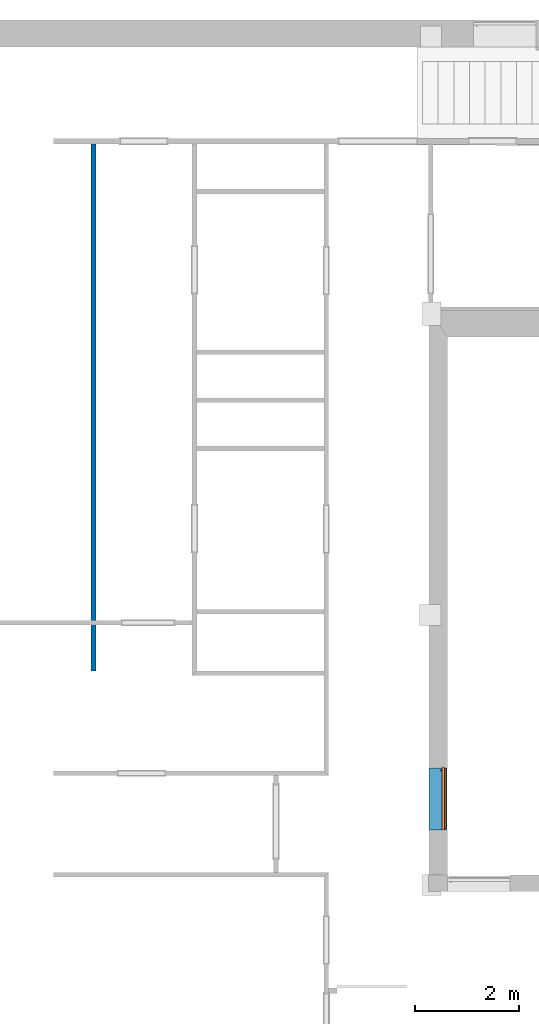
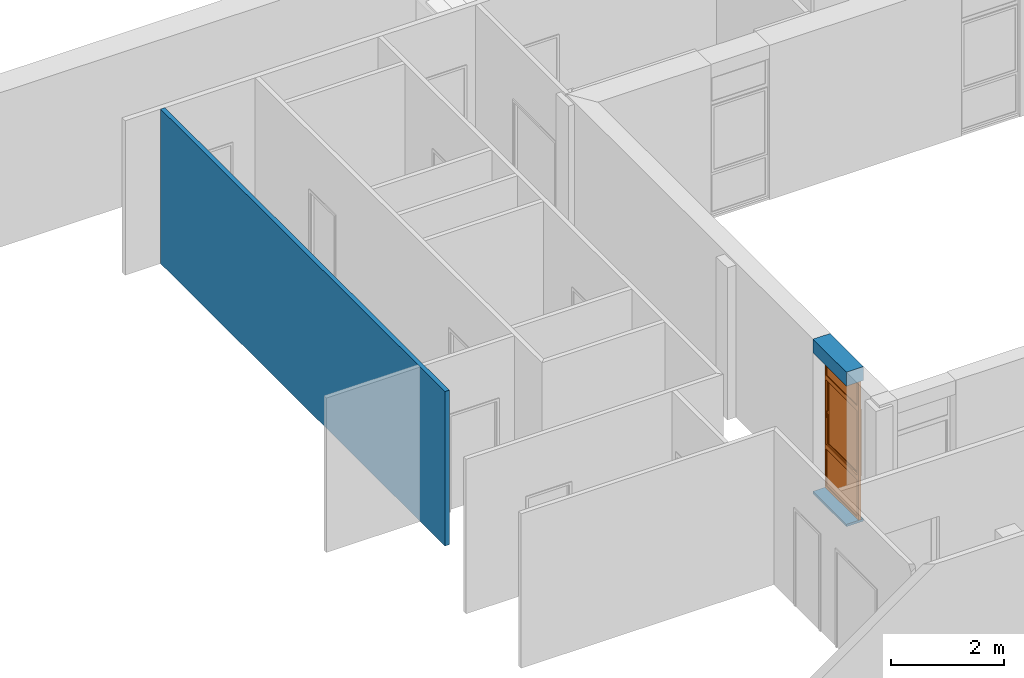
# One storey, part 27 of 60: 2 walls, 1 proxy, 1 opening.
"""IFC2X3 building model written with IfcOpenShell, lengths in millimetres."""

from ifc_helpers import new_model, entity, si_unit, converted_unit, derived_unit, money_unit, direction, frame, origin_with_axes, origin_2d_with_axis, place, context, subcontext, project, spatial, polyline, rectangle, outline, extrude, open_shell, faceted_brep, surface_model, source, transform, mapped, material, layer, layer_set, layer_usage, type_object, element, fill, save


model = new_model("IFC2X3")

# Units and contexts
model_context = context("Model", 3, precision=0.01, world=origin_with_axes(), true_north=direction((0.0, 1.0)))
body_context = subcontext(model_context, "Body", "Model", "MODEL_VIEW")
ifc_project = project(units=[si_unit("LENGTHUNIT", "METRE", prefix="MILLI"), si_unit("AREAUNIT", "SQUARE_METRE"), si_unit("VOLUMEUNIT", "CUBIC_METRE"), converted_unit("PLANEANGLEUNIT", "DEGREE", entity("IfcPlaneAngleMeasure", 0.0174532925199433), si_unit("PLANEANGLEUNIT", "RADIAN"), dimensions=[0, 0, 0, 0, 0, 0, 0]), money_unit("USD"), converted_unit("TIMEUNIT", "Year", entity("IfcTimeMeasure", 31557600.0), si_unit("TIMEUNIT", "SECOND"), dimensions=[0, 0, 1, 0, 0, 0, 0]), si_unit("MASSUNIT", "GRAM", prefix="KILO"), si_unit("THERMODYNAMICTEMPERATUREUNIT", "DEGREE_CELSIUS"), si_unit("LUMINOUSINTENSITYUNIT", "LUMEN"), si_unit("ENERGYUNIT", "JOULE", prefix="MEGA"), derived_unit("THERMALCONDUCTANCEUNIT", [(si_unit("POWERUNIT", "WATT"), 1), (si_unit("LENGTHUNIT", "METRE"), -1), (si_unit("THERMODYNAMICTEMPERATUREUNIT", "KELVIN"), -1)]), derived_unit("SPECIFICHEATCAPACITYUNIT", [(si_unit("ENERGYUNIT", "JOULE"), 1), (si_unit("MASSUNIT", "GRAM", prefix="KILO"), -1), (si_unit("THERMODYNAMICTEMPERATUREUNIT", "KELVIN"), -1)]), derived_unit("MASSDENSITYUNIT", [(si_unit("MASSUNIT", "GRAM", prefix="KILO"), 1), (si_unit("VOLUMEUNIT", "CUBIC_METRE"), -1)])], contexts=[model_context])

# Site, building, storey
site_placement = place(None, origin_with_axes())
site = spatial("IfcSite", under=ifc_project, at=site_placement, Name="Sitio", CompositionType="ELEMENT")
building_placement = place(site_placement, origin_with_axes())
building = spatial("IfcBuilding", under=site, at=building_placement, Name="Construcción", CompositionType="ELEMENT")
storey_placement = place(building_placement, frame((0.0, 0.0, 3650.0), z_axis=(0.0, 0.0, 1.0), x_axis=(1.0, 0.0, 0.0)))
storey = spatial("IfcBuildingStorey", under=building, at=storey_placement, Name="PLANTA 2ª", CompositionType="ELEMENT", Elevation=3650.0)

# Wall, opening, proxy
ifc_material_1 = material(Name="ARQ_AM246_Arrebossat_De_Guix")
ifc_layer_1 = layer(ifc_material_1, 20.0, ventilated="UNKNOWN")
ifc_material_2 = material(Name="ARQ_CE217_Gero")
ifc_layer_2 = layer(ifc_material_2, 150.0, ventilated="UNKNOWN")
ifc_material_3 = material(Name="ARQ_AI031_Aillament_Poliestireno expandido EPS")
ifc_layer_3 = layer(ifc_material_3, 110.0, ventilated="UNKNOWN")
ifc_material_4 = material(Name="ARQ_CE218_Ceramic")
ifc_layer_4 = layer(ifc_material_4, 50.0, ventilated="UNKNOWN")
ifc_layer_5 = layer(ifc_material_1, 20.0, ventilated="UNKNOWN")
ifc_layer_set_1 = layer_set([ifc_layer_1, ifc_layer_2, ifc_layer_3, ifc_layer_4, ifc_layer_5], Name="façana pati CR4 (Ampit)")
ifc_layer_usage_1 = layer_usage(ifc_layer_set_1, "AXIS2", "POSITIVE", -350.0)
wall_type_1 = type_object("IfcWallType", Name="façana pati CR4 (Ampit) 350", PredefinedType="NOTDEFINED")
wall_1_placement = place(storey_placement, frame((-28050.84818028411, -11150.97582371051, 0.0), z_axis=(0.0, 0.0, 1.0), x_axis=(0.0, 1.0, 0.0)))
wall_1 = element("IfcWallStandardCase", 1, at=wall_1_placement, inside=storey, type_object=wall_type_1, material=ifc_layer_usage_1, Name="MS-200", context=body_context, shape_type="SweptSolid", body=[
    extrude(outline(polyline([(0.0, -350.0000000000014), (1186.000000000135, -350.0000000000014), (1186.000000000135, 0.0), (0.0, 0.0), (0.0, -350.0000000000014)])), origin_with_axes(), (0.0, 0.0, 1.0), 3350.0),
])
opening_placement = place(wall_1_placement, frame((600.0000000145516, 0.0, 49.99999999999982), z_axis=(0.0, 0.0, 1.0), x_axis=(1.0, 0.0, 0.0)))
opening = element("IfcOpeningElement", 2, at=opening_placement, cuts=wall_1, Name="V - 008", context=body_context, shape_type="SweptSolid", body=[
    extrude(rectangle(XDim=1200.000000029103, YDim=3000.0, at=origin_2d_with_axis()), frame((0.0, -300.0000000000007, 1500.0), z_axis=(0.0, -1.0, 0.0), x_axis=(-1.0, 0.0, 0.0)), (0.0, 0.0, -1.0), 650.0000000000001),
    extrude(rectangle(XDim=1200.000000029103, YDim=3000.0, at=origin_2d_with_axis()), frame((0.0, -300.0000000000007, 1500.0), z_axis=(0.0, 1.0, 0.0), x_axis=(-1.0, 0.0, 0.0)), (0.0, 0.0, -1.0), 400.0),
])
building_element_proxy_type = type_object("IfcBuildingElementProxyType", Name="Ventana Vertical Multi-Faja 27", PredefinedType="NOTDEFINED")
shared_shape = source(origin_with_axes(), body_context, "Body", "SurfaceModel", [
    faceted_brep([(-575.0000000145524, 0.0, 925.0), (-550.0000000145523, 0.0, 925.0), (-550.0000000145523, 0.0, 850.0), (-550.0000000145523, 0.0, 50.00000000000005), (-600.0000000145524, 0.0, 50.00000000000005), (-600.0000000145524, 0.0, 2950.0), (-550.0000000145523, 0.0, 2950.0), (-550.0000000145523, 0.0, 2450.0), (-550.0000000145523, 0.0, 2375.0), (-575.0000000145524, 0.0, 2375.0), (-575.0000000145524, -25.00000000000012, 925.0), (-550.0000000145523, -25.00000000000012, 925.0), (-550.0000000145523, -25.00000000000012, 950.0000000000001), (-550.0000000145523, -50.00000000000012, 950.0000000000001), (-550.0000000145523, -50.00000000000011, 850.0), (-550.0000000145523, -50.00000000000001, 50.00000000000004), (-600.0000000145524, -50.00000000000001, 50.00000000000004), (-600.0000000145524, -50.00000000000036, 2950.0), (-550.0000000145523, -50.00000000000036, 2950.0), (-550.0000000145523, -50.0000000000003, 2450.0), (-550.0000000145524, -25.00000000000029, 2375.0), (-550.0000000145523, -50.00000000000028, 2350.0), (-550.0000000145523, -25.00000000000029, 2350.0), (-575.0000000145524, -25.00000000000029, 2375.0)], [[[0, 1, 2, 3, 4, 5, 6, 7, 8, 9]], [[0, 10, 11, 1]], [[11, 12, 13, 14, 2, 1]], [[3, 2, 14, 15]], [[4, 3, 15, 16]], [[5, 4, 16, 17]], [[6, 5, 17, 18]], [[7, 6, 18, 19]], [[20, 8, 7, 19, 21, 22]], [[20, 23, 9, 8]], [[9, 23, 10, 0]], [[22, 12, 11, 10, 23, 20]], [[22, 21, 13, 12]], [[17, 16, 15, 14, 13, 21, 19, 18]]]),
    faceted_brep([(575.0000000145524, 0.0, 925.0), (575.0000000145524, 0.0, 2375.0), (550.0000000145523, 0.0, 2375.0), (550.0000000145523, 0.0, 2450.0), (550.0000000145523, 0.0, 2950.0), (600.0000000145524, 0.0, 2950.0), (600.0000000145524, 0.0, 50.00000000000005), (550.0000000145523, 0.0, 50.00000000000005), (550.0000000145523, 0.0, 850.0), (550.0000000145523, 0.0, 925.0), (575.0000000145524, -25.00000000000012, 925.0), (575.0000000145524, -25.00000000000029, 2375.0), (550.0000000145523, -25.00000000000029, 2375.0), (550.0000000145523, -25.00000000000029, 2350.0), (550.0000000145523, -50.00000000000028, 2350.0), (550.0000000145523, -50.0000000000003, 2450.0), (550.0000000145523, -50.00000000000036, 2950.0), (600.0000000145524, -50.00000000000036, 2950.0), (600.0000000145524, -50.00000000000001, 50.00000000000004), (550.0000000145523, -50.00000000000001, 50.00000000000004), (550.0000000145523, -50.00000000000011, 850.0), (550.0000000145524, -25.00000000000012, 925.0), (550.0000000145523, -50.00000000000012, 950.0000000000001), (550.0000000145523, -25.00000000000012, 950.0000000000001)], [[[0, 1, 2, 3, 4, 5, 6, 7, 8, 9]], [[0, 10, 11, 1]], [[1, 11, 12, 2]], [[12, 13, 14, 15, 3, 2]], [[4, 3, 15, 16]], [[5, 4, 16, 17]], [[6, 5, 17, 18]], [[7, 6, 18, 19]], [[8, 7, 19, 20]], [[21, 9, 8, 20, 22, 23]], [[9, 21, 10, 0]], [[12, 11, 10, 21, 23, 13]], [[23, 22, 14, 13]], [[14, 22, 20, 19, 18, 17, 16, 15]]]),
    faceted_brep([(-550.0000000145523, -25.00000000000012, 950.0000000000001), (-550.0000000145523, -50.00000000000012, 950.0000000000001), (550.0000000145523, -50.00000000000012, 950.0000000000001), (550.0000000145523, -25.00000000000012, 950.0000000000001), (-550.0000000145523, -25.00000000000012, 925.0), (-550.0000000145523, 0.0, 925.0), (-550.0000000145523, 0.0, 850.0), (-550.0000000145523, -50.00000000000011, 850.0), (550.0000000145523, -50.00000000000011, 850.0), (550.0000000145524, -25.00000000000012, 925.0), (550.0000000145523, 0.0, 850.0), (550.0000000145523, 0.0, 925.0)], [[[0, 1, 2, 3]], [[4, 5, 6, 7, 1, 0]], [[1, 7, 8, 2]], [[9, 3, 2, 8, 10, 11]], [[9, 4, 0, 3]], [[5, 4, 9, 11]], [[11, 10, 6, 5]], [[6, 10, 8, 7]]]),
    faceted_brep([(-550.0000000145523, 0.0, 2375.0), (-550.0000000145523, 0.0, 2450.0), (550.0000000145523, 0.0, 2450.0), (550.0000000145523, 0.0, 2375.0), (-550.0000000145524, -25.00000000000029, 2375.0), (-550.0000000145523, -25.00000000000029, 2350.0), (-550.0000000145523, -50.00000000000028, 2350.0), (-550.0000000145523, -50.0000000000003, 2450.0), (550.0000000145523, -50.0000000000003, 2450.0), (550.0000000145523, -25.00000000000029, 2375.0), (550.0000000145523, -50.00000000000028, 2350.0), (550.0000000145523, -25.00000000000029, 2350.0)], [[[0, 1, 2, 3]], [[4, 5, 6, 7, 1, 0]], [[2, 1, 7, 8]], [[9, 3, 2, 8, 10, 11]], [[9, 4, 0, 3]], [[11, 5, 4, 9]], [[11, 10, 6, 5]], [[7, 6, 10, 8]]]),
    faceted_brep([(550.0000000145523, -50.00000000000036, 2950.0), (550.0000000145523, 0.0, 2950.0), (600.0000000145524, 0.0, 2950.0), (600.0000000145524, -50.00000000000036, 2950.0), (-550.0000000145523, -50.00000000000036, 2950.0), (-550.0000000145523, 0.0, 2950.0), (-600.0000000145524, 0.0, 2950.0), (-600.0000000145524, 0.0, 3000.0), (600.0000000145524, 0.0, 3000.0), (600.0000000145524, -50.00000000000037, 3000.0), (-600.0000000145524, -50.00000000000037, 3000.0), (-600.0000000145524, -50.00000000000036, 2950.0)], [[[0, 1, 2, 3]], [[4, 5, 1, 0]], [[1, 5, 6, 7, 8, 2]], [[3, 2, 8, 9]], [[0, 3, 9, 10, 11, 4]], [[11, 6, 5, 4]], [[10, 7, 6, 11]], [[9, 8, 7, 10]]]),
    faceted_brep([(-550.0000000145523, -50.00000000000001, 50.0), (-550.0000000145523, 0.0, 50.00000000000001), (-600.0000000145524, 0.0, 50.00000000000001), (-600.0000000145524, -50.00000000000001, 50.0), (550.0000000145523, -50.00000000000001, 50.0), (550.0000000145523, 0.0, 50.00000000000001), (600.0000000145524, 0.0, 50.00000000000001), (600.0000000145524, 0.0, 0.0), (-600.0000000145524, 0.0, 0.0), (-600.0000000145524, -50.0, 0.0), (600.0000000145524, -50.0, 0.0), (600.0000000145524, -50.00000000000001, 50.0)], [[[0, 1, 2, 3]], [[4, 5, 1, 0]], [[1, 5, 6, 7, 8, 2]], [[3, 2, 8, 9]], [[0, 3, 9, 10, 11, 4]], [[11, 6, 5, 4]], [[10, 7, 6, 11]], [[9, 8, 7, 10]]]),
    surface_model("IfcShellBasedSurfaceModel", [(-550.0000000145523, -35.0, 49.99999999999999), (550.0000000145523, -35.0, 49.99999999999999), (550.0000000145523, -35.0000000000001, 850.0), (-550.0000000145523, -35.0000000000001, 850.0)], [open_shell([[[0, 1, 2, 3]]])]),
    surface_model("IfcShellBasedSurfaceModel", [(-550.0000000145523, -15.0, 49.99999999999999), (-550.0000000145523, -15.0000000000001, 850.0), (550.0000000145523, -15.0000000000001, 850.0), (550.0000000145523, -15.0, 49.99999999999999)], [open_shell([[[0, 1, 2, 3]]])]),
    faceted_brep([(-521.5000000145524, -25.00000000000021, 1677.0), (-522.839745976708, -25.00000000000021, 1682.0), (-522.839745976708, -37.00000000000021, 1682.0), (-521.5000000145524, -37.00000000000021, 1677.0), (-521.5000000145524, -25.0000000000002, 1623.0), (-522.839745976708, -25.0000000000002, 1618.0), (-526.5000000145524, -25.0000000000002, 1614.339745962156), (-531.5000000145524, -25.0000000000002, 1613.0), (-543.5000000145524, -25.0000000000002, 1613.0), (-548.5000000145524, -25.0000000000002, 1614.339745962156), (-552.1602540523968, -25.0000000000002, 1618.0), (-553.5000000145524, -25.0000000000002, 1623.0), (-553.5000000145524, -25.00000000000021, 1677.0), (-552.1602540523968, -25.00000000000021, 1682.0), (-548.5000000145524, -25.00000000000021, 1685.660254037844), (-543.5000000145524, -25.00000000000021, 1687.0), (-531.5000000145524, -25.00000000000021, 1687.0), (-526.5000000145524, -25.00000000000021, 1685.660254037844), (-526.5000000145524, -37.00000000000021, 1685.660254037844), (-531.5000000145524, -37.00000000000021, 1687.0), (-543.5000000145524, -37.00000000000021, 1687.0), (-548.5000000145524, -37.00000000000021, 1685.660254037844), (-552.1602540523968, -37.00000000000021, 1682.0), (-553.5000000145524, -37.00000000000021, 1677.0), (-553.5000000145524, -37.0000000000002, 1623.0), (-552.1602540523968, -37.0000000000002, 1618.0), (-548.5000000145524, -37.0000000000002, 1614.339745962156), (-543.5000000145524, -37.0000000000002, 1613.0), (-531.5000000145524, -37.0000000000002, 1613.0), (-526.5000000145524, -37.0000000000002, 1614.339745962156), (-522.839745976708, -37.0000000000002, 1618.0), (-521.5000000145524, -37.0000000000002, 1623.0)], [[[0, 1, 2, 3]], [[0, 4, 5, 6, 7, 8, 9, 10, 11, 12, 13, 14, 15, 16, 17, 1]], [[1, 17, 18, 2]], [[3, 2, 18, 19, 20, 21, 22, 23, 24, 25, 26, 27, 28, 29, 30, 31]], [[4, 0, 3, 31]], [[5, 4, 31, 30]], [[6, 5, 30, 29]], [[7, 6, 29, 28]], [[8, 7, 28, 27]], [[9, 8, 27, 26]], [[10, 9, 26, 25]], [[11, 10, 25, 24]], [[12, 11, 24, 23]], [[13, 12, 23, 22]], [[14, 13, 22, 21]], [[15, 14, 21, 20]], [[16, 15, 20, 19]], [[17, 16, 19, 18]]]),
    faceted_brep([(-537.5000000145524, -37.0000000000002, 1663.5), (-544.2500000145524, -37.0000000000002, 1661.69134295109), (-544.2500000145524, -61.00000000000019, 1661.69134295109), (-537.5000000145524, -61.00000000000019, 1663.5), (-530.7500000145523, -37.0000000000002, 1661.69134295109), (-525.8086570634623, -37.0000000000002, 1656.75), (-524.0000000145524, -37.0000000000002, 1650.0), (-525.8086570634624, -37.0000000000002, 1643.25), (-530.7500000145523, -37.0000000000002, 1638.30865704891), (-537.5000000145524, -37.0000000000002, 1636.5), (-544.2500000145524, -37.0000000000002, 1638.30865704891), (-549.1913429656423, -37.0000000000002, 1643.25), (-551.0000000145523, -37.0000000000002, 1650.0), (-549.1913429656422, -37.0000000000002, 1656.75), (-549.1913429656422, -61.00000000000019, 1656.75), (-551.0000000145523, -61.00000000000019, 1650.0), (-549.1913429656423, -61.00000000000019, 1643.25), (-544.2500000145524, -61.00000000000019, 1638.30865704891), (-537.5000000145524, -61.00000000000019, 1636.5), (-530.7500000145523, -61.00000000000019, 1638.30865704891), (-525.8086570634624, -61.00000000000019, 1643.25), (-524.0000000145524, -61.00000000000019, 1650.0), (-525.8086570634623, -61.00000000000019, 1656.75), (-530.7500000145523, -61.00000000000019, 1661.69134295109)], [[[0, 1, 2, 3]], [[0, 4, 5, 6, 7, 8, 9, 10, 11, 12, 13, 1]], [[1, 13, 14, 2]], [[3, 2, 14, 15, 16, 17, 18, 19, 20, 21, 22, 23]], [[4, 0, 3, 23]], [[5, 4, 23, 22]], [[6, 5, 22, 21]], [[7, 6, 21, 20]], [[8, 7, 20, 19]], [[9, 8, 19, 18]], [[10, 9, 18, 17]], [[11, 10, 17, 16]], [[12, 11, 16, 15]], [[13, 12, 15, 14]]]),
    faceted_brep([(-526.0000000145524, -61.00000000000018, 1543.0), (-537.5000000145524, -61.00000000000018, 1540.0), (-549.0000000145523, -61.00000000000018, 1543.0), (-551.0000000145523, -61.00000000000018, 1546.0), (-551.0000000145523, -61.00000000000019, 1650.0), (-549.1913429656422, -61.00000000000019, 1656.75), (-544.2500000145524, -61.00000000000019, 1661.69134295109), (-537.5000000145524, -61.00000000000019, 1663.5), (-530.7500000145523, -61.00000000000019, 1661.69134295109), (-525.8086570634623, -61.00000000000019, 1656.75), (-524.0000000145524, -61.00000000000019, 1650.0), (-524.0000000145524, -61.00000000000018, 1546.0), (-525.9999999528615, -69.00000000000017, 1543.000000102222), (-537.4999999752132, -69.00000000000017, 1539.999999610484), (-548.9999999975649, -69.00000000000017, 1543.000000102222), (-551.0000003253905, -69.00000000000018, 1545.999999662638), (-551.0000003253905, -69.0000000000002, 1649.99999994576), (-549.1913430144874, -69.0000000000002, 1656.749999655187), (-544.2499996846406, -69.0000000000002, 1661.691342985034), (-537.4999999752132, -69.0000000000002, 1663.500000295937), (-530.7500002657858, -69.0000000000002, 1661.691342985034), (-525.808656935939, -69.0000000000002, 1656.749999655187), (-523.9999996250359, -69.0000000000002, 1649.99999994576), (-523.9999996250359, -69.00000000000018, 1545.999999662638), (-527.8625374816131, -71.99999956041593, 1545.61451963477), (-537.4999999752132, -71.99999956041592, 1543.100398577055), (-547.1374624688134, -71.99999956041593, 1545.61451963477), (-548.0000007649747, -71.99999956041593, 1546.908326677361), (-548.0000007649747, -71.99999956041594, 1649.605042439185), (-546.5016170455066, -71.99999956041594, 1655.197085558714), (-542.6970855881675, -71.99999956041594, 1659.001617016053), (-537.4999999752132, -71.99999956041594, 1660.394172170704), (-532.302914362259, -71.99999956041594, 1659.001617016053), (-528.4983829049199, -71.99999956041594, 1655.197085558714), (-526.9999991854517, -71.99999956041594, 1649.605042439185), (-526.9999991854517, -71.99999956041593, 1546.908326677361)], [[[0, 1, 2, 3, 4, 5, 6, 7, 8, 9, 10, 11]], [[1, 0, 12, 13]], [[2, 1, 13, 14]], [[3, 2, 14, 15]], [[4, 3, 15, 16]], [[5, 4, 16, 17]], [[6, 5, 17, 18]], [[7, 6, 18, 19]], [[8, 7, 19, 20]], [[9, 8, 20, 21]], [[10, 9, 21, 22]], [[11, 10, 22, 23]], [[0, 11, 23, 12]], [[13, 12, 24, 25]], [[14, 13, 25, 26]], [[15, 14, 26, 27]], [[16, 15, 27, 28]], [[17, 16, 28, 29]], [[18, 17, 29, 30]], [[19, 18, 30, 31]], [[20, 19, 31, 32]], [[21, 20, 32, 33]], [[22, 21, 33, 34]], [[23, 22, 34, 35]], [[12, 23, 35, 24]], [[26, 25, 24, 35, 34, 33, 32, 31, 30, 29, 28, 27]]]),
    faceted_brep([(-525.0000000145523, -25.00000000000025, 2325.0), (-525.0000000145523, 24.99999999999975, 2325.0), (-575.0000000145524, 24.99999999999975, 2325.0), (-575.0000000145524, -25.00000000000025, 2325.0), (-525.0000000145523, -25.00000000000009, 975.0000000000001), (-525.0000000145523, 24.99999999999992, 975.0000000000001), (-575.0000000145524, 24.99999999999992, 975.0000000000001), (-575.0000000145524, -25.00000000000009, 975.0000000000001)], [[[0, 1, 2, 3]], [[4, 5, 1, 0]], [[1, 5, 6, 2]], [[3, 2, 6, 7]], [[0, 3, 7, 4]], [[7, 6, 5, 4]]]),
    faceted_brep([(525.0000000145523, -25.00000000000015, 975.0000000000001), (525.0000000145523, 24.99999999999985, 975.0000000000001), (575.0000000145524, 24.99999999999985, 975.0000000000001), (575.0000000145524, -25.00000000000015, 975.0000000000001), (525.0000000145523, -25.00000000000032, 2325.0), (525.0000000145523, 24.99999999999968, 2325.0), (575.0000000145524, 24.99999999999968, 2325.0), (575.0000000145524, -25.00000000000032, 2325.0)], [[[0, 1, 2, 3]], [[4, 5, 1, 0]], [[1, 5, 6, 2]], [[3, 2, 6, 7]], [[0, 3, 7, 4]], [[7, 6, 5, 4]]]),
    faceted_brep([(575.0000000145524, -25.00000000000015, 925.0), (575.0000000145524, 24.99999999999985, 925.0), (575.0000000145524, 24.99999999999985, 975.0000000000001), (575.0000000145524, -25.00000000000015, 975.0000000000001), (-575.0000000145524, -25.00000000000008, 925.0), (-575.0000000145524, 24.99999999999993, 925.0), (-575.0000000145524, 24.99999999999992, 975.0000000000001), (-525.0000000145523, 24.99999999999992, 975.0000000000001), (525.0000000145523, 24.99999999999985, 975.0000000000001), (525.0000000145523, -25.00000000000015, 975.0000000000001), (-525.0000000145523, -25.00000000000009, 975.0000000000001), (-575.0000000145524, -25.00000000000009, 975.0000000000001)], [[[0, 1, 2, 3]], [[4, 5, 1, 0]], [[1, 5, 6, 7, 8, 2]], [[3, 2, 8, 9]], [[0, 3, 9, 10, 11, 4]], [[11, 6, 5, 4]], [[10, 7, 6, 11]], [[9, 8, 7, 10]]]),
    faceted_brep([(-575.0000000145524, -25.00000000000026, 2375.0), (-575.0000000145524, 24.99999999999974, 2375.0), (-575.0000000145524, 24.99999999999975, 2325.0), (-575.0000000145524, -25.00000000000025, 2325.0), (575.0000000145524, -25.00000000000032, 2375.0), (575.0000000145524, 24.99999999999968, 2375.0), (575.0000000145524, 24.99999999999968, 2325.0), (525.0000000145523, 24.99999999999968, 2325.0), (-525.0000000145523, 24.99999999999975, 2325.0), (-525.0000000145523, -25.00000000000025, 2325.0), (525.0000000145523, -25.00000000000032, 2325.0), (575.0000000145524, -25.00000000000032, 2325.0)], [[[0, 1, 2, 3]], [[4, 5, 1, 0]], [[1, 5, 6, 7, 8, 2]], [[3, 2, 8, 9]], [[0, 3, 9, 10, 11, 4]], [[11, 6, 5, 4]], [[10, 7, 6, 11]], [[9, 8, 7, 10]]]),
    surface_model("IfcShellBasedSurfaceModel", [(-525.0000000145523, -10.00000000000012, 975.0000000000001), (525.0000000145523, -10.00000000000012, 975.0000000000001), (525.0000000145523, -10.00000000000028, 2325.0), (-525.0000000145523, -10.00000000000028, 2325.0)], [open_shell([[[0, 1, 2, 3]]])]),
    surface_model("IfcShellBasedSurfaceModel", [(-525.0000000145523, 9.999999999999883, 975.0000000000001), (-525.0000000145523, 9.99999999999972, 2325.0), (525.0000000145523, 9.99999999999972, 2325.0), (525.0000000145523, 9.999999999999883, 975.0000000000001)], [open_shell([[[0, 1, 2, 3]]])]),
    surface_model("IfcShellBasedSurfaceModel", [(-550.0000000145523, -35.0000000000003, 2450.0), (550.0000000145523, -35.0000000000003, 2450.0), (550.0000000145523, -35.00000000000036, 2950.0), (-550.0000000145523, -35.00000000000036, 2950.0)], [open_shell([[[0, 1, 2, 3]]])]),
    surface_model("IfcShellBasedSurfaceModel", [(-550.0000000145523, -15.0000000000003, 2450.0), (-550.0000000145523, -15.00000000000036, 2950.0), (550.0000000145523, -15.00000000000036, 2950.0), (550.0000000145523, -15.0000000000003, 2450.0)], [open_shell([[[0, 1, 2, 3]]])]),
])
proxy_placement = place(opening_placement, frame((600.0000000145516, 0.0, 0.0), z_axis=(0.0, 0.0, 1.0), x_axis=(-1.0, 0.0, 0.0)))
proxy = element("IfcBuildingElementProxy", 3, at=proxy_placement, inside=storey, type_object=building_element_proxy_type, Name="V - 008", context=body_context, shape_type="MappedRepresentation", body=[
    mapped(shared_shape, transform((600.0000000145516, 300.0000000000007, 0.0))),
])
fill(opening, proxy)

# Wall
ifc_layer_6 = layer(ifc_material_1, 10.0, ventilated="UNKNOWN")
ifc_layer_7 = layer(ifc_material_2, 70.0, ventilated="UNKNOWN")
ifc_layer_8 = layer(ifc_material_1, 10.0, ventilated="UNKNOWN")
ifc_layer_set_2 = layer_set([ifc_layer_6, ifc_layer_7, ifc_layer_8], Name="CR Enva Totxaneta")
ifc_layer_usage_2 = layer_usage(ifc_layer_set_2, "AXIS2", "POSITIVE", 0.0)
wall_type_2 = type_object("IfcWallType", Name="CR Enva Totxaneta 90", PredefinedType="NOTDEFINED")
wall_2_placement = place(storey_placement, frame((-34436.1521800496, -8102.702553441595, 0.0), z_axis=(0.0, 0.0, 1.0), x_axis=(0.0, 1.0, 0.0)))
element("IfcWallStandardCase", 4, at=wall_2_placement, inside=storey, type_object=wall_type_2, material=ifc_layer_usage_2, Name="MS-203", context=body_context, shape_type="SweptSolid", body=[
    extrude(outline(polyline([(0.0, 0.0), (10102.25742417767, 0.0), (10102.25742417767, 90.00000000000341), (0.0, 90.00000000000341), (0.0, 0.0)])), origin_with_axes(), (0.0, 0.0, 1.0), 3350.0),
])

save(model, "model.ifc")
